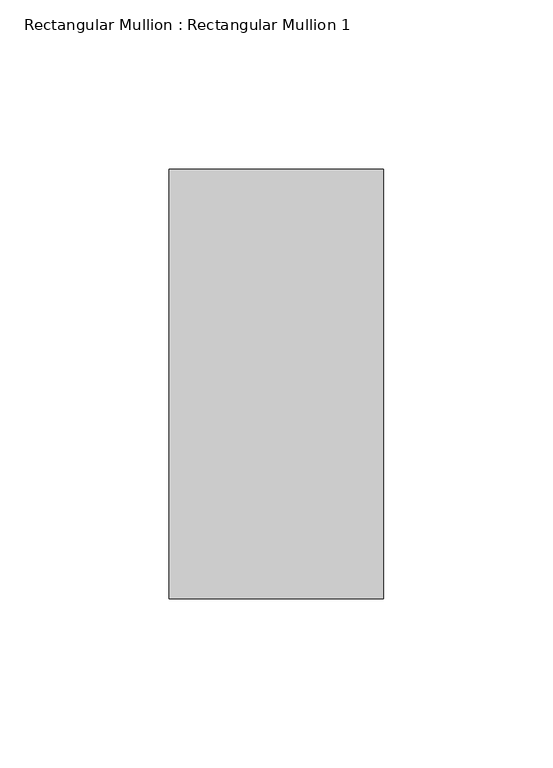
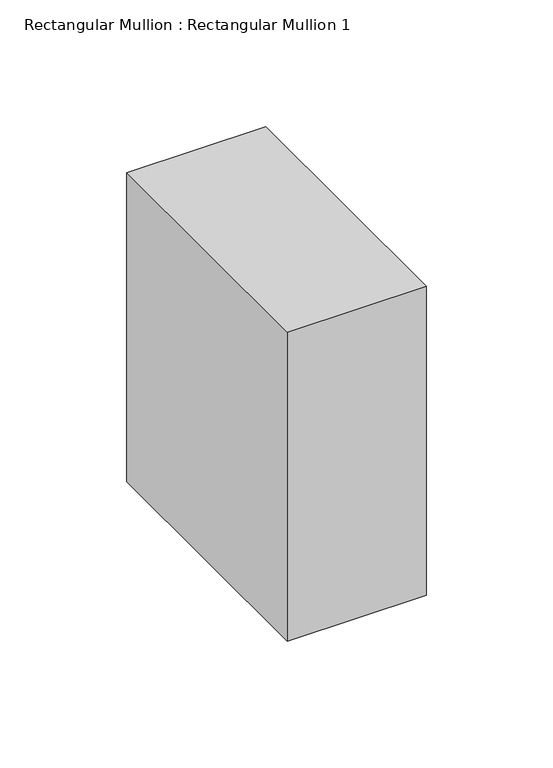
"""IFC4 building model written with IfcOpenShell, lengths in millimetres: member geometry, Rectangular Mullion : Rectangular Mullion 1."""

from ifc_helpers import new_model, si_unit, frame, origin, place, context, project, spatial, polyline, outline, extrude, source, transform, mapped, element, save


def rectangular_mullion_rectangular_mullion_1_67903e99(model_context):
    return source(origin(), model_context, "Body", "SweptSolid", [
        extrude(outline(polyline([(31.75, 63.5), (31.75, -63.5), (-31.75, -63.5), (-31.75, 63.5), (31.75, 63.5)])), frame((0.0, 0.0, -149.1919949), z_axis=(0.0, 0.0, 1.0), x_axis=(1.0, 0.0, 0.0)), (0.0, 0.0, 1.0), 149.1919949),
    ])


if __name__ == "__main__":
    model = new_model("IFC4")
    model_context = context("Model", 3, world=origin())
    ifc_project = project(units=[si_unit("LENGTHUNIT", "METRE", prefix="MILLI")], contexts=[model_context])
    site = spatial("IfcSite", under=ifc_project)
    building = spatial("IfcBuilding", under=site)
    placement = place(None, origin())
    rectangular_mullion_rectangular_mullion_1_shape = rectangular_mullion_rectangular_mullion_1_67903e99(model_context)
    element("IfcMember", 1, ObjectType="Rectangular Mullion : Rectangular Mullion 1", at=placement, inside=building, context=model_context, shape_type="MappedRepresentation", body=[
        mapped(rectangular_mullion_rectangular_mullion_1_shape, transform((0.0, 0.0, 0.0), x_axis=(1.0, 0.0, 0.0), y_axis=(0.0, 1.0, 0.0), z_axis=(0.0, 0.0, 1.0))),
    ])
    save(model, "model.ifc")
